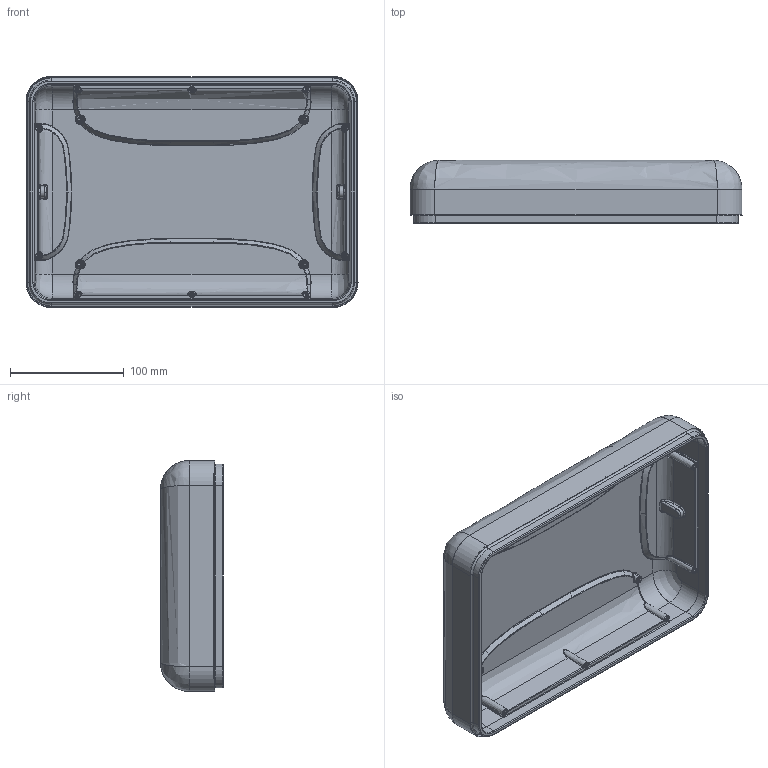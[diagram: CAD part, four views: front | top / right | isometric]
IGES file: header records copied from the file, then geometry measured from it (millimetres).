
Start section: SolidWorks IGES file using analytic representation for surfaces
Global section: file name: M:\NANUK\Solidworks\3D\Top Loader\TL1\4 - 3D FILES\5 - INNER SURFACES\T20_TOP_INNER SURFACES_IGES.IGS; native system: SolidWorks 2022; preprocessor: SolidWorks 2022; author: dbrousseau; date: 230703.104035; units: inch
Bounding box: 291.98 x 55.37 x 203.08 mm (x, y, z)
Surface area: 201358.8 mm2 (no closed solid volume)
Topology: 0 solids, 0 shells, 847 faces, 8764 edges, 8736 vertices
Faces by surface type: bspline 682, revolution 165
